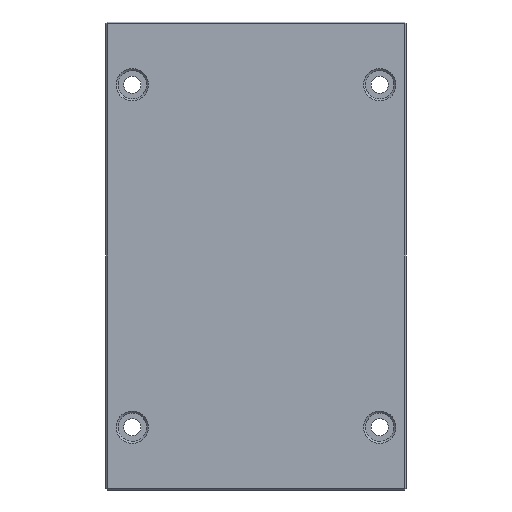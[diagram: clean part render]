
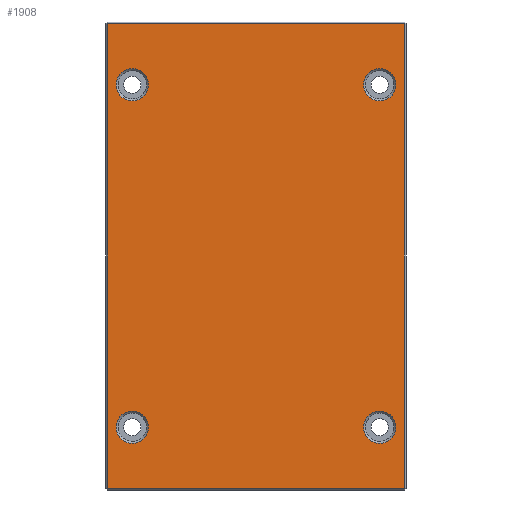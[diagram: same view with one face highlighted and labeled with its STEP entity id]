
A CAD part, front view. The second image highlights one B-rep face of the part: STEP entity #1908.
In plain terms, the highlighted planar face has unit normal (0, -1, 0).
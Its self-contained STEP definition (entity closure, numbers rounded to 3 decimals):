
#34 = VECTOR ( 'NONE', #1273, 1000. ) ;
#88 = CIRCLE ( 'NONE', #977, 8.5 ) ;
#164 = AXIS2_PLACEMENT_3D ( 'NONE', #787, #1010, #1028 ) ;
#175 = ORIENTED_EDGE ( 'NONE', *, *, #1596, .T. ) ;
#184 = CIRCLE ( 'NONE', #164, 8.5 ) ;
#270 = EDGE_LOOP ( 'NONE', ( #1363, #992, #1936, #1919 ) ) ;
#288 = CARTESIAN_POINT ( 'NONE',  ( -65., 0., 90. ) ) ;
#300 = DIRECTION ( 'NONE',  ( 0., 1., 0. ) ) ;
#304 = CIRCLE ( 'NONE', #1870, 8.5 ) ;
#313 = LINE ( 'NONE', #1578, #34 ) ;
#315 = DIRECTION ( 'NONE',  ( 0., 0., 1. ) ) ;
#323 = AXIS2_PLACEMENT_3D ( 'NONE', #1979, #2067, #2135 ) ;
#330 = CARTESIAN_POINT ( 'NONE',  ( 65., 0., -98.5 ) ) ;
#345 = LINE ( 'NONE', #1510, #1387 ) ;
#361 = ORIENTED_EDGE ( 'NONE', *, *, #2354, .T. ) ;
#379 = ORIENTED_EDGE ( 'NONE', *, *, #2015, .T. ) ;
#425 = EDGE_CURVE ( 'NONE', #1530, #1828, #184, .T. ) ;
#433 = DIRECTION ( 'NONE',  ( 0., 1., 0. ) ) ;
#453 = FACE_BOUND ( 'NONE', #725, .T. ) ;
#475 = LINE ( 'NONE', #543, #986 ) ;
#489 = ORIENTED_EDGE ( 'NONE', *, *, #1548, .T. ) ;
#496 = CARTESIAN_POINT ( 'NONE',  ( -78., 0., -122. ) ) ;
#516 = VERTEX_POINT ( 'NONE', #1601 ) ;
#526 = EDGE_CURVE ( 'NONE', #1617, #2236, #313, .T. ) ;
#527 = VERTEX_POINT ( 'NONE', #1722 ) ;
#543 = CARTESIAN_POINT ( 'NONE',  ( 0., 0., -122. ) ) ;
#570 = CARTESIAN_POINT ( 'NONE',  ( -65., 0., 98.5 ) ) ;
#626 = CIRCLE ( 'NONE', #323, 8.5 ) ;
#641 = DIRECTION ( 'NONE',  ( 1., 0., 0. ) ) ;
#704 = CARTESIAN_POINT ( 'NONE',  ( -78., 0., 0. ) ) ;
#715 = DIRECTION ( 'NONE',  ( 0., 0., -1. ) ) ;
#725 = EDGE_LOOP ( 'NONE', ( #175, #1593 ) ) ;
#739 = LINE ( 'NONE', #704, #1758 ) ;
#743 = VERTEX_POINT ( 'NONE', #1814 ) ;
#787 = CARTESIAN_POINT ( 'NONE',  ( 65., 0., 90. ) ) ;
#824 = AXIS2_PLACEMENT_3D ( 'NONE', #288, #300, #315 ) ;
#917 = DIRECTION ( 'NONE',  ( 0., 0., 1. ) ) ;
#934 = DIRECTION ( 'NONE',  ( 0., 1., 0. ) ) ;
#941 = CARTESIAN_POINT ( 'NONE',  ( 0., 0., 0. ) ) ;
#977 = AXIS2_PLACEMENT_3D ( 'NONE', #2000, #433, #1150 ) ;
#986 = VECTOR ( 'NONE', #641, 1000. ) ;
#992 = ORIENTED_EDGE ( 'NONE', *, *, #2519, .T. ) ;
#1007 = DIRECTION ( 'NONE',  ( 0., 0., 1. ) ) ;
#1010 = DIRECTION ( 'NONE',  ( 0., 1., 0. ) ) ;
#1026 = CARTESIAN_POINT ( 'NONE',  ( 65., 0., -90. ) ) ;
#1028 = DIRECTION ( 'NONE',  ( 0., 0., 1. ) ) ;
#1043 = CARTESIAN_POINT ( 'NONE',  ( 78., 0., 122. ) ) ;
#1086 = EDGE_LOOP ( 'NONE', ( #2352, #489 ) ) ;
#1095 = DIRECTION ( 'NONE',  ( 0., 1., 0. ) ) ;
#1123 = CARTESIAN_POINT ( 'NONE',  ( 65., 0., -90. ) ) ;
#1150 = DIRECTION ( 'NONE',  ( 0., 0., 1. ) ) ;
#1159 = CARTESIAN_POINT ( 'NONE',  ( -65., 0., -81.5 ) ) ;
#1162 = CIRCLE ( 'NONE', #1442, 8.5 ) ;
#1166 = AXIS2_PLACEMENT_3D ( 'NONE', #1026, #2116, #1781 ) ;
#1167 = PLANE ( 'NONE',  #1280 ) ;
#1188 = CIRCLE ( 'NONE', #2484, 8.5 ) ;
#1200 = VERTEX_POINT ( 'NONE', #1159 ) ;
#1221 = VERTEX_POINT ( 'NONE', #1279 ) ;
#1245 = CIRCLE ( 'NONE', #1166, 8.5 ) ;
#1273 = DIRECTION ( 'NONE',  ( 0., 0., 1. ) ) ;
#1279 = CARTESIAN_POINT ( 'NONE',  ( -78., 0., 122. ) ) ;
#1280 = AXIS2_PLACEMENT_3D ( 'NONE', #941, #934, #917 ) ;
#1363 = ORIENTED_EDGE ( 'NONE', *, *, #526, .T. ) ;
#1387 = VECTOR ( 'NONE', #1427, 1000. ) ;
#1427 = DIRECTION ( 'NONE',  ( -1., 0., 0. ) ) ;
#1442 = AXIS2_PLACEMENT_3D ( 'NONE', #1123, #1095, #1007 ) ;
#1476 = VERTEX_POINT ( 'NONE', #496 ) ;
#1481 = CIRCLE ( 'NONE', #824, 8.5 ) ;
#1510 = CARTESIAN_POINT ( 'NONE',  ( 0., 0., 122. ) ) ;
#1520 = CARTESIAN_POINT ( 'NONE',  ( 65., 0., 81.5 ) ) ;
#1530 = VERTEX_POINT ( 'NONE', #1520 ) ;
#1545 = CARTESIAN_POINT ( 'NONE',  ( 65., 0., 98.5 ) ) ;
#1548 = EDGE_CURVE ( 'NONE', #1828, #1530, #626, .T. ) ;
#1572 = FACE_BOUND ( 'NONE', #2024, .T. ) ;
#1578 = CARTESIAN_POINT ( 'NONE',  ( 78., 0., 0. ) ) ;
#1593 = ORIENTED_EDGE ( 'NONE', *, *, #1724, .T. ) ;
#1596 = EDGE_CURVE ( 'NONE', #516, #1200, #1188, .T. ) ;
#1601 = CARTESIAN_POINT ( 'NONE',  ( -65., 0., -98.5 ) ) ;
#1612 = ORIENTED_EDGE ( 'NONE', *, *, #1890, .T. ) ;
#1617 = VERTEX_POINT ( 'NONE', #2508 ) ;
#1722 = CARTESIAN_POINT ( 'NONE',  ( 65., 0., -81.5 ) ) ;
#1724 = EDGE_CURVE ( 'NONE', #1200, #516, #304, .T. ) ;
#1746 = FACE_BOUND ( 'NONE', #2431, .T. ) ;
#1758 = VECTOR ( 'NONE', #715, 1000. ) ;
#1781 = DIRECTION ( 'NONE',  ( 0., 0., 1. ) ) ;
#1814 = CARTESIAN_POINT ( 'NONE',  ( -65., 0., 81.5 ) ) ;
#1828 = VERTEX_POINT ( 'NONE', #1545 ) ;
#1870 = AXIS2_PLACEMENT_3D ( 'NONE', #2446, #2343, #2341 ) ;
#1890 = EDGE_CURVE ( 'NONE', #2111, #527, #1162, .T. ) ;
#1908 = ADVANCED_FACE ( 'NONE', ( #2502, #1746, #1572, #453, #1999 ), #1167, .F. ) ;
#1919 = ORIENTED_EDGE ( 'NONE', *, *, #2185, .T. ) ;
#1936 = ORIENTED_EDGE ( 'NONE', *, *, #2401, .T. ) ;
#1979 = CARTESIAN_POINT ( 'NONE',  ( 65., 0., 90. ) ) ;
#1999 = FACE_BOUND ( 'NONE', #1086, .T. ) ;
#2000 = CARTESIAN_POINT ( 'NONE',  ( -65., 0., 90. ) ) ;
#2015 = EDGE_CURVE ( 'NONE', #527, #2111, #1245, .T. ) ;
#2024 = EDGE_LOOP ( 'NONE', ( #1612, #379 ) ) ;
#2043 = EDGE_CURVE ( 'NONE', #2215, #743, #88, .T. ) ;
#2067 = DIRECTION ( 'NONE',  ( 0., 1., 0. ) ) ;
#2111 = VERTEX_POINT ( 'NONE', #330 ) ;
#2116 = DIRECTION ( 'NONE',  ( 0., 1., 0. ) ) ;
#2135 = DIRECTION ( 'NONE',  ( 0., 0., 1. ) ) ;
#2185 = EDGE_CURVE ( 'NONE', #1476, #1617, #475, .T. ) ;
#2215 = VERTEX_POINT ( 'NONE', #570 ) ;
#2236 = VERTEX_POINT ( 'NONE', #1043 ) ;
#2237 = ORIENTED_EDGE ( 'NONE', *, *, #2043, .T. ) ;
#2280 = CARTESIAN_POINT ( 'NONE',  ( -65., 0., -90. ) ) ;
#2314 = DIRECTION ( 'NONE',  ( 0., 1., 0. ) ) ;
#2341 = DIRECTION ( 'NONE',  ( 0., 0., 1. ) ) ;
#2343 = DIRECTION ( 'NONE',  ( 0., 1., 0. ) ) ;
#2352 = ORIENTED_EDGE ( 'NONE', *, *, #425, .T. ) ;
#2354 = EDGE_CURVE ( 'NONE', #743, #2215, #1481, .T. ) ;
#2366 = DIRECTION ( 'NONE',  ( 0., 0., 1. ) ) ;
#2401 = EDGE_CURVE ( 'NONE', #1221, #1476, #739, .T. ) ;
#2431 = EDGE_LOOP ( 'NONE', ( #361, #2237 ) ) ;
#2446 = CARTESIAN_POINT ( 'NONE',  ( -65., 0., -90. ) ) ;
#2484 = AXIS2_PLACEMENT_3D ( 'NONE', #2280, #2314, #2366 ) ;
#2502 = FACE_OUTER_BOUND ( 'NONE', #270, .T. ) ;
#2508 = CARTESIAN_POINT ( 'NONE',  ( 78., 0., -122. ) ) ;
#2519 = EDGE_CURVE ( 'NONE', #2236, #1221, #345, .T. ) ;
